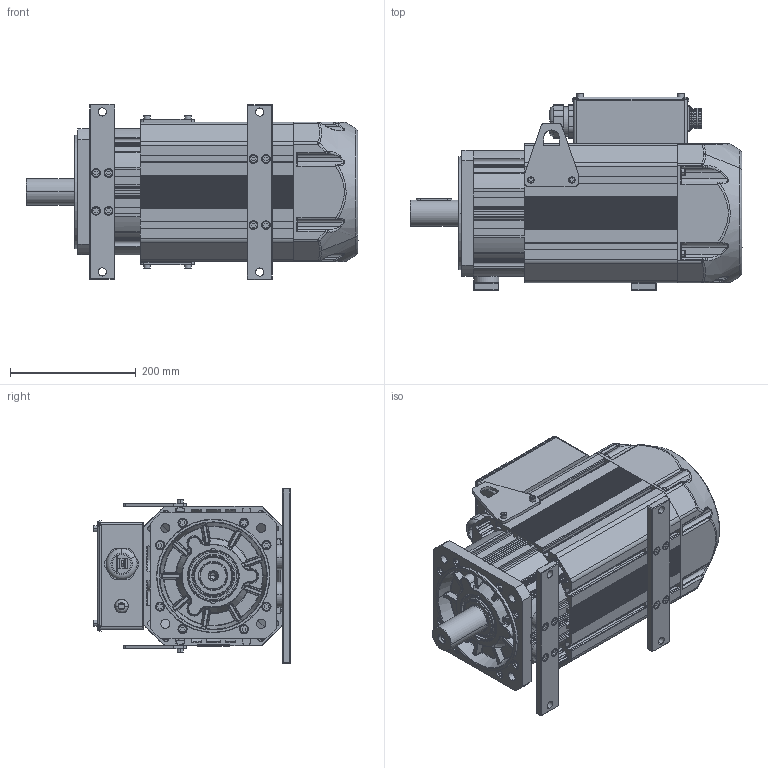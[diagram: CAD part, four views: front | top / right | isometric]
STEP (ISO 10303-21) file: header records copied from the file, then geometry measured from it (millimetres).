
FILE_DESCRIPTION((''),'2;1');
FILE_NAME('60NBZ___SW0001','2025-08-25T08:41:58',('0109502'),(''),'CREO PARAMETRIC BY PTC INC, 2019080','CREO PARAMETRIC BY PTC INC, 2019080','');
FILE_SCHEMA(('CONFIG_CONTROL_DESIGN'));
Products named in the file (1): 60NBZ___SW0001
Bounding box: 527 x 312.5 x 278.25 mm (x, y, z)
Surface area: 1630103.3 mm2 (no closed solid volume)
Topology: 0 solids, 168 shells, 3209 faces, 10894 edges, 7734 vertices
Faces by surface type: plane 1455, cylinder 1077, torus 261, bspline 195, cone 190, sphere 31
Entity records: 133473 total; most frequent: CARTESIAN_POINT 39113, DIRECTION 20059, ORIENTED_EDGE 18042, EDGE_CURVE 10874, VERTEX_POINT 7734, AXIS2_PLACEMENT_3D 6947, VECTOR 6165, LINE 6165
